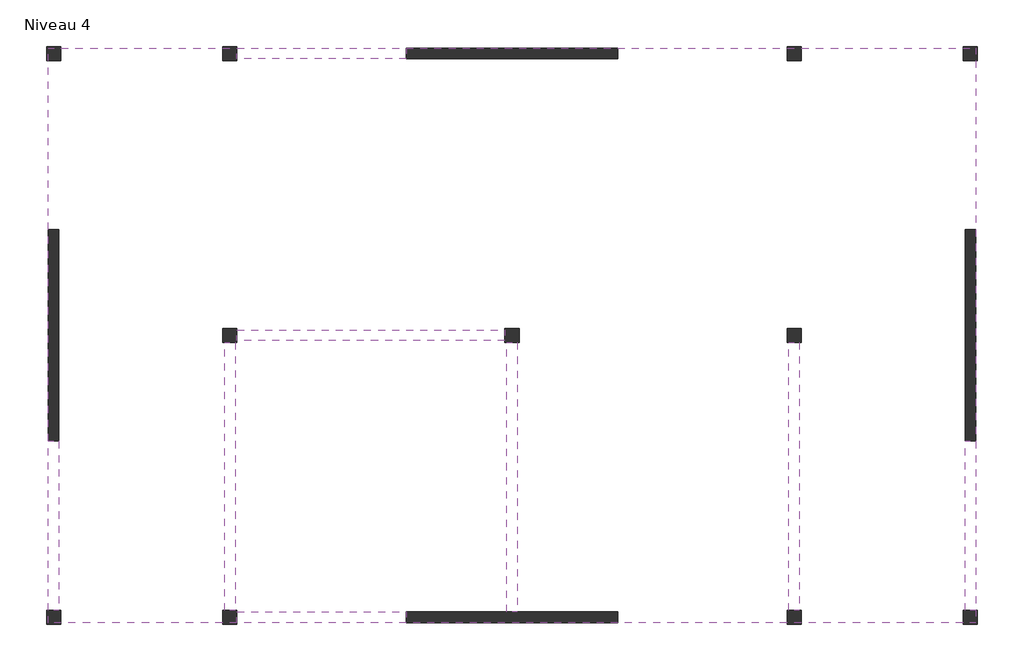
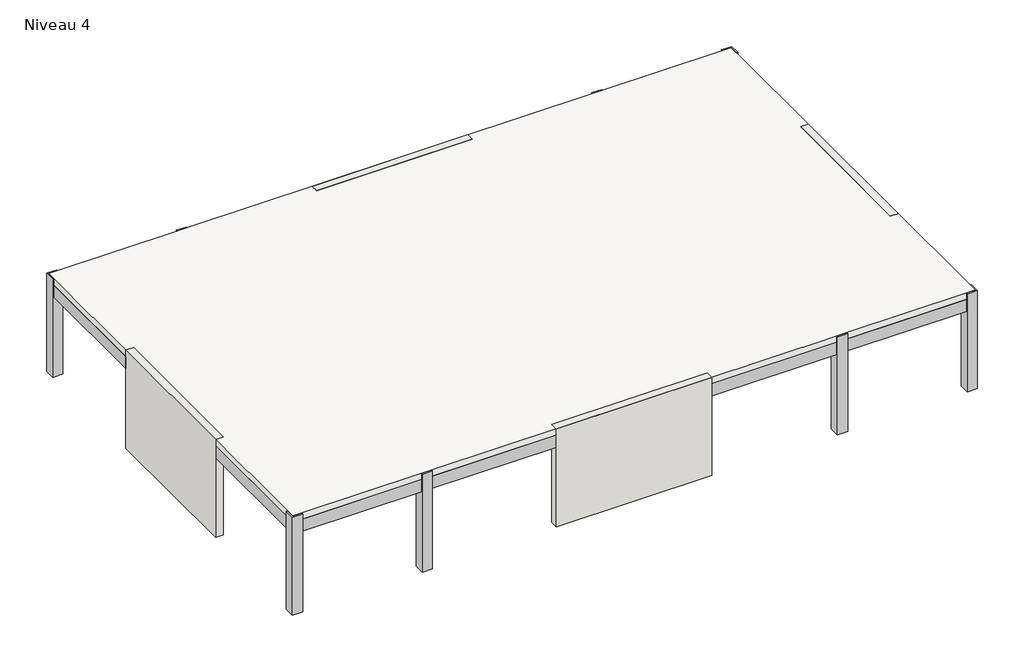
# One storey: 11 columns, 8 beams, 4 walls, 1 slab.
"""IFC4 building model written with IfcOpenShell, lengths in millimetres."""

from ifc_helpers import new_model, si_unit, frame, origin, place, context, project, spatial, polyline, outline, extrude, faceted_brep, element, save

model = new_model("IFC4")

# Units and contexts
model_context = context("Model", 3, world=origin())
ifc_project = project(units=[si_unit("LENGTHUNIT", "METRE", prefix="MILLI")], contexts=[model_context])

# Site, building, storey
site = spatial("IfcSite", under=ifc_project)
building = spatial("IfcBuilding", under=site)
storey = spatial("IfcBuildingStorey", under=building, Name="Niveau 4", Elevation=16000.0)

# Beams
placement = place(None, origin())
element("IfcBeam", 1, ObjectType="Poutre rectangulaire - Béton : 300 x 750 mm", at=placement, inside=storey, context=model_context, shape_type="SweptSolid", body=[
    extrude(outline(polyline([(-16808.6650278, 7952.7596515), (-16508.6650278, 7952.7596515), (-16508.6650278, 3152.7596515), (-16808.6650278, 3152.7596515), (-16808.6650278, 7952.7596515)])), frame((0.0, 0.0, 19250.0), z_axis=(0.0, 0.0, 1.0), x_axis=(1.0, 0.0, 0.0)), (0.0, 0.0, 1.0), 500.0),
    extrude(outline(polyline([(-16508.6650278, -7647.2403485), (-16808.6650278, -7647.2403485), (-16808.6650278, -2847.2403485), (-16508.6650278, -2847.2403485), (-16508.6650278, -7647.2403485)])), frame((0.0, 0.0, 19250.0), z_axis=(0.0, 0.0, 1.0), x_axis=(1.0, 0.0, 0.0)), (0.0, 0.0, 1.0), 500.0),
])
element("IfcBeam", 2, ObjectType="Poutre rectangulaire - Béton : 300 x 750 mm", at=placement, inside=storey, context=model_context, shape_type="SweptSolid", body=[
    extrude(outline(polyline([(-11808.6650278, 7952.7596515), (-11508.6650278, 7952.7596515), (-11508.6650278, 352.7596515), (-11808.6650278, 352.7596515), (-11808.6650278, 7952.7596515)])), frame((0.0, 0.0, 19250.0), z_axis=(0.0, 0.0, 1.0), x_axis=(1.0, 0.0, 0.0)), (0.0, 0.0, 1.0), 500.0),
    extrude(outline(polyline([(-11808.6650278, -47.2403485), (-11508.6650278, -47.2403485), (-11508.6650278, -7647.2403485), (-11808.6650278, -7647.2403485), (-11808.6650278, -47.2403485)])), frame((0.0, 0.0, 19250.0), z_axis=(0.0, 0.0, 1.0), x_axis=(1.0, 0.0, 0.0)), (0.0, 0.0, 1.0), 500.0),
])
element("IfcBeam", 3, ObjectType="Poutre rectangulaire - Béton : 300 x 750 mm", at=placement, inside=storey, context=model_context, shape_type="SweptSolid", body=[
    extrude(outline(polyline([(4491.3349722, 352.7596515), (4191.3349722, 352.7596515), (4191.3349722, 7952.7596515), (4491.3349722, 7952.7596515), (4491.3349722, 352.7596515)])), frame((0.0, 0.0, 19250.0), z_axis=(0.0, 0.0, 1.0), x_axis=(1.0, 0.0, 0.0)), (0.0, 0.0, 1.0), 500.0),
    extrude(outline(polyline([(4491.3349722, -7647.2403485), (4191.3349722, -7647.2403485), (4191.3349722, -47.2403485), (4491.3349722, -47.2403485), (4491.3349722, -7647.2403485)])), frame((0.0, 0.0, 19250.0), z_axis=(0.0, 0.0, 1.0), x_axis=(1.0, 0.0, 0.0)), (0.0, 0.0, 1.0), 500.0),
])
element("IfcBeam", 4, ObjectType="Poutre rectangulaire - Béton : 300 x 750 mm", at=placement, inside=storey, context=model_context, shape_type="SweptSolid", body=[
    extrude(outline(polyline([(9191.3349722, 7952.7596515), (9491.3349722, 7952.7596515), (9491.3349722, 3152.7596515), (9191.3349722, 3152.7596515), (9191.3349722, 7952.7596515)])), frame((0.0, 0.0, 19250.0), z_axis=(0.0, 0.0, 1.0), x_axis=(1.0, 0.0, 0.0)), (0.0, 0.0, 1.0), 500.0),
    extrude(outline(polyline([(9491.3349722, -7647.2403485), (9191.3349722, -7647.2403485), (9191.3349722, -2847.2403485), (9491.3349722, -2847.2403485), (9491.3349722, -7647.2403485)])), frame((0.0, 0.0, 19250.0), z_axis=(0.0, 0.0, 1.0), x_axis=(1.0, 0.0, 0.0)), (0.0, 0.0, 1.0), 500.0),
])
element("IfcBeam", 5, ObjectType="Poutre rectangulaire - Béton : 300 x 750 mm", at=placement, inside=storey, context=model_context, shape_type="SweptSolid", body=[
    extrude(outline(polyline([(9191.3349722, 302.7596515), (9191.3349722, 2.7596515), (4541.3349722, 2.7596515), (4541.3349722, 302.7596515), (9191.3349722, 302.7596515)])), frame((0.0, 0.0, 19250.0), z_axis=(0.0, 0.0, 1.0), x_axis=(1.0, 0.0, 0.0)), (0.0, 0.0, 1.0), 500.0),
    extrude(outline(polyline([(-16508.6650278, 2.7596515), (-16508.6650278, 302.7596515), (-11858.6650278, 302.7596515), (-11858.6650278, 2.7596515), (-16508.6650278, 2.7596515)])), frame((0.0, 0.0, 19250.0), z_axis=(0.0, 0.0, 1.0), x_axis=(1.0, 0.0, 0.0)), (0.0, 0.0, 1.0), 500.0),
    extrude(outline(polyline([(-11458.6650278, 2.7596515), (-11458.6650278, 302.7596515), (-3858.6650278, 302.7596515), (-3858.6650278, 2.7596515), (-11458.6650278, 2.7596515)])), frame((0.0, 0.0, 19250.0), z_axis=(0.0, 0.0, 1.0), x_axis=(1.0, 0.0, 0.0)), (0.0, 0.0, 1.0), 500.0),
    extrude(outline(polyline([(-3458.6650278, 2.7596515), (-3458.6650278, 302.7596515), (4141.3349722, 302.7596515), (4141.3349722, 2.7596515), (-3458.6650278, 2.7596515)])), frame((0.0, 0.0, 19250.0), z_axis=(0.0, 0.0, 1.0), x_axis=(1.0, 0.0, 0.0)), (0.0, 0.0, 1.0), 500.0),
])
element("IfcBeam", 6, ObjectType="Poutre rectangulaire - Béton : 300 x 750 mm", at=placement, inside=storey, context=model_context, shape_type="SweptSolid", body=[
    extrude(outline(polyline([(-3508.6650278, 8002.7596515), (-3508.6650278, 352.7596515), (-3808.6650278, 352.7596515), (-3808.6650278, 8002.7596515), (-3508.6650278, 8002.7596515)])), frame((0.0, 0.0, 19250.0), z_axis=(0.0, 0.0, 1.0), x_axis=(1.0, 0.0, 0.0)), (0.0, 0.0, 1.0), 500.0),
    extrude(outline(polyline([(-3508.6650278, -47.2403485), (-3508.6650278, -7697.2403485), (-3808.6650278, -7697.2403485), (-3808.6650278, -47.2403485), (-3508.6650278, -47.2403485)])), frame((0.0, 0.0, 19250.0), z_axis=(0.0, 0.0, 1.0), x_axis=(1.0, 0.0, 0.0)), (0.0, 0.0, 1.0), 500.0),
])
element("IfcBeam", 7, ObjectType="Poutre rectangulaire - Béton : 300 x 750 mm", at=placement, inside=storey, context=model_context, shape_type="SweptSolid", body=[
    extrude(outline(polyline([(-16458.6650278, -7997.2403485), (-16458.6650278, -7697.2403485), (-11858.6650278, -7697.2403485), (-11858.6650278, -7997.2403485), (-16458.6650278, -7997.2403485)])), frame((0.0, 0.0, 19250.0), z_axis=(0.0, 0.0, 1.0), x_axis=(1.0, 0.0, 0.0)), (0.0, 0.0, 1.0), 500.0),
    extrude(outline(polyline([(-11458.6650278, -7997.2403485), (-11458.6650278, -7697.2403485), (-6658.6650278, -7697.2403485), (-6658.6650278, -7997.2403485), (-11458.6650278, -7997.2403485)])), frame((0.0, 0.0, 19250.0), z_axis=(0.0, 0.0, 1.0), x_axis=(1.0, 0.0, 0.0)), (0.0, 0.0, 1.0), 500.0),
    extrude(outline(polyline([(9141.3349722, -7997.2403485), (4541.3349722, -7997.2403485), (4541.3349722, -7697.2403485), (9141.3349722, -7697.2403485), (9141.3349722, -7997.2403485)])), frame((0.0, 0.0, 19250.0), z_axis=(0.0, 0.0, 1.0), x_axis=(1.0, 0.0, 0.0)), (0.0, 0.0, 1.0), 500.0),
    extrude(outline(polyline([(4141.3349722, -7697.2403485), (4141.3349722, -7997.2403485), (-658.6650278, -7997.2403485), (-658.6650278, -7697.2403485), (4141.3349722, -7697.2403485)])), frame((0.0, 0.0, 19250.0), z_axis=(0.0, 0.0, 1.0), x_axis=(1.0, 0.0, 0.0)), (0.0, 0.0, 1.0), 500.0),
])
element("IfcBeam", 8, ObjectType="Poutre rectangulaire - Béton : 300 x 750 mm", at=placement, inside=storey, context=model_context, shape_type="SweptSolid", body=[
    extrude(outline(polyline([(-11858.6650278, 8002.7596515), (-16458.6650278, 8002.7596515), (-16458.6650278, 8302.7596515), (-11858.6650278, 8302.7596515), (-11858.6650278, 8002.7596515)])), frame((0.0, 0.0, 19250.0), z_axis=(0.0, 0.0, 1.0), x_axis=(1.0, 0.0, 0.0)), (0.0, 0.0, 1.0), 500.0),
    extrude(outline(polyline([(-11458.6650278, 8002.7596515), (-11458.6650278, 8302.7596515), (-6658.6650278, 8302.7596515), (-6658.6650278, 8002.7596515), (-11458.6650278, 8002.7596515)])), frame((0.0, 0.0, 19250.0), z_axis=(0.0, 0.0, 1.0), x_axis=(1.0, 0.0, 0.0)), (0.0, 0.0, 1.0), 500.0),
    extrude(outline(polyline([(9141.3349722, 8002.7596515), (4541.3349722, 8002.7596515), (4541.3349722, 8302.7596515), (9141.3349722, 8302.7596515), (9141.3349722, 8002.7596515)])), frame((0.0, 0.0, 19250.0), z_axis=(0.0, 0.0, 1.0), x_axis=(1.0, 0.0, 0.0)), (0.0, 0.0, 1.0), 500.0),
    extrude(outline(polyline([(4141.3349722, 8302.7596515), (4141.3349722, 8002.7596515), (-658.6650278, 8002.7596515), (-658.6650278, 8302.7596515), (4141.3349722, 8302.7596515)])), frame((0.0, 0.0, 19250.0), z_axis=(0.0, 0.0, 1.0), x_axis=(1.0, 0.0, 0.0)), (0.0, 0.0, 1.0), 500.0),
])

# Columns
element("IfcColumn", 9, ObjectType="Poteau béton - Carré : 400 mm x 400 mm", at=placement, inside=storey, context=model_context, shape_type="Brep", body=[
    faceted_brep([(-16458.6650278, 8352.7596515, 16000.0), (-16458.6650278, 7952.7596515, 16000.0), (-16858.6650278, 7952.7596515, 16000.0), (-16858.6650278, 8352.7596515, 16000.0), (-16458.6650278, 8352.7596515, 20000.0), (-16458.6650278, 8302.7596515, 20000.0), (-16458.6650278, 8302.7596515, 19750.0), (-16458.6650278, 8002.7596515, 19750.0), (-16458.6650278, 7952.7596515, 19750.0), (-16508.6650278, 7952.7596515, 19750.0), (-16808.6650278, 7952.7596515, 19750.0), (-16808.6650278, 7952.7596515, 20000.0), (-16858.6650278, 7952.7596515, 20000.0), (-16858.6650278, 8352.7596515, 20000.0), (-16808.6650278, 8302.7596515, 20000.0), (-16808.6650278, 8302.7596515, 19750.0)], [[[0, 1, 2, 3]], [[1, 0, 4, 5, 6, 7, 8]], [[2, 1, 8, 9, 10, 11, 12]], [[3, 2, 12, 13]], [[0, 3, 13, 4]], [[13, 12, 11, 14, 5, 4]], [[6, 15, 10, 9, 8, 7]], [[15, 14, 11, 10]], [[14, 15, 6, 5]]]),
])
element("IfcColumn", 10, ObjectType="Poteau béton - Carré : 400 mm x 400 mm", at=placement, inside=storey, context=model_context, shape_type="Brep", body=[
    faceted_brep([(-11458.6650278, 8352.7596515, 16000.0), (-11458.6650278, 7952.7596515, 16000.0), (-11858.6650278, 7952.7596515, 16000.0), (-11858.6650278, 8352.7596515, 16000.0), (-11458.6650278, 8352.7596515, 20000.0), (-11458.6650278, 8302.7596515, 20000.0), (-11458.6650278, 8302.7596515, 19750.0), (-11458.6650278, 8002.7596515, 19750.0), (-11458.6650278, 7952.7596515, 19750.0), (-11508.6650278, 7952.7596515, 19750.0), (-11808.6650278, 7952.7596515, 19750.0), (-11858.6650278, 7952.7596515, 19750.0), (-11858.6650278, 8002.7596515, 19750.0), (-11858.6650278, 8302.7596515, 19750.0), (-11858.6650278, 8302.7596515, 20000.0), (-11858.6650278, 8352.7596515, 20000.0)], [[[0, 1, 2, 3]], [[1, 0, 4, 5, 6, 7, 8]], [[2, 1, 8, 9, 10, 11]], [[3, 2, 11, 12, 13, 14, 15]], [[0, 3, 15, 4]], [[4, 15, 14, 5]], [[6, 13, 12, 11, 10, 9, 8, 7]], [[13, 6, 5, 14]]]),
])
element("IfcColumn", 11, ObjectType="Poteau béton - Carré : 400 mm x 400 mm", at=placement, inside=storey, context=model_context, shape_type="Brep", body=[
    faceted_brep([(-11458.6650278, 352.7596515, 16000.0), (-11458.6650278, -47.2403485, 16000.0), (-11858.6650278, -47.2403485, 16000.0), (-11858.6650278, 352.7596515, 16000.0), (-11458.6650278, 352.7596515, 19750.0), (-11458.6650278, 302.7596515, 19750.0), (-11458.6650278, 2.7596515, 19750.0), (-11458.6650278, -47.2403485, 19750.0), (-11508.6650278, -47.2403485, 19750.0), (-11808.6650278, -47.2403485, 19750.0), (-11858.6650278, -47.2403485, 19750.0), (-11858.6650278, 2.7596515, 19750.0), (-11858.6650278, 302.7596515, 19750.0), (-11858.6650278, 352.7596515, 19750.0), (-11808.6650278, 352.7596515, 19750.0), (-11508.6650278, 352.7596515, 19750.0)], [[[0, 1, 2, 3]], [[1, 0, 4, 5, 6, 7]], [[2, 1, 7, 8, 9, 10]], [[3, 2, 10, 11, 12, 13]], [[0, 3, 13, 14, 15, 4]], [[7, 6, 5, 4, 15, 14, 13, 12, 11, 10, 9, 8]]]),
])
element("IfcColumn", 12, ObjectType="Poteau béton - Carré : 400 mm x 400 mm", at=placement, inside=storey, context=model_context, shape_type="Brep", body=[
    faceted_brep([(-3458.6650278, 352.7596515, 16000.0), (-3458.6650278, -47.2403485, 16000.0), (-3858.6650278, -47.2403485, 16000.0), (-3858.6650278, 352.7596515, 16000.0), (-3458.6650278, 352.7596515, 19750.0), (-3458.6650278, 302.7596515, 19750.0), (-3458.6650278, 2.7596515, 19750.0), (-3458.6650278, -47.2403485, 19750.0), (-3508.6650278, -47.2403485, 19750.0), (-3808.6650278, -47.2403485, 19750.0), (-3858.6650278, -47.2403485, 19750.0), (-3858.6650278, 2.7596515, 19750.0), (-3858.6650278, 302.7596515, 19750.0), (-3858.6650278, 352.7596515, 19750.0), (-3808.6650278, 352.7596515, 19750.0), (-3508.6650278, 352.7596515, 19750.0)], [[[0, 1, 2, 3]], [[1, 0, 4, 5, 6, 7]], [[2, 1, 7, 8, 9, 10]], [[3, 2, 10, 11, 12, 13]], [[0, 3, 13, 14, 15, 4]], [[7, 6, 5, 4, 15, 14, 13, 12, 11, 10, 9, 8]]]),
])
element("IfcColumn", 13, ObjectType="Poteau béton - Carré : 400 mm x 400 mm", at=placement, inside=storey, context=model_context, shape_type="Brep", body=[
    faceted_brep([(-16458.6650278, -7647.2403485, 16000.0), (-16458.6650278, -8047.2403485, 16000.0), (-16858.6650278, -8047.2403485, 16000.0), (-16858.6650278, -7647.2403485, 16000.0), (-16458.6650278, -7647.2403485, 19750.0), (-16458.6650278, -7697.2403485, 19750.0), (-16458.6650278, -7997.2403485, 19750.0), (-16458.6650278, -7997.2403485, 20000.0), (-16458.6650278, -8047.2403485, 20000.0), (-16858.6650278, -8047.2403485, 20000.0), (-16858.6650278, -7647.2403485, 20000.0), (-16808.6650278, -7647.2403485, 20000.0), (-16808.6650278, -7647.2403485, 19750.0), (-16508.6650278, -7647.2403485, 19750.0), (-16808.6650278, -7997.2403485, 20000.0), (-16808.6650278, -7997.2403485, 19750.0)], [[[0, 1, 2, 3]], [[1, 0, 4, 5, 6, 7, 8]], [[2, 1, 8, 9]], [[3, 2, 9, 10]], [[0, 3, 10, 11, 12, 13, 4]], [[9, 8, 7, 14, 11, 10]], [[12, 15, 6, 5, 4, 13]], [[15, 14, 7, 6]], [[14, 15, 12, 11]]]),
])
element("IfcColumn", 14, ObjectType="Poteau béton - Carré : 400 mm x 400 mm", at=placement, inside=storey, context=model_context, shape_type="Brep", body=[
    faceted_brep([(-11458.6650278, -7647.2403485, 16000.0), (-11458.6650278, -8047.2403485, 16000.0), (-11858.6650278, -8047.2403485, 16000.0), (-11858.6650278, -7647.2403485, 16000.0), (-11458.6650278, -7647.2403485, 19750.0), (-11458.6650278, -7697.2403485, 19750.0), (-11458.6650278, -7997.2403485, 19750.0), (-11458.6650278, -7997.2403485, 20000.0), (-11458.6650278, -8047.2403485, 20000.0), (-11858.6650278, -8047.2403485, 20000.0), (-11858.6650278, -7997.2403485, 20000.0), (-11858.6650278, -7997.2403485, 19750.0), (-11858.6650278, -7697.2403485, 19750.0), (-11858.6650278, -7647.2403485, 19750.0), (-11808.6650278, -7647.2403485, 19750.0), (-11508.6650278, -7647.2403485, 19750.0)], [[[0, 1, 2, 3]], [[1, 0, 4, 5, 6, 7, 8]], [[2, 1, 8, 9]], [[3, 2, 9, 10, 11, 12, 13]], [[0, 3, 13, 14, 15, 4]], [[9, 8, 7, 10]], [[11, 6, 5, 4, 15, 14, 13, 12]], [[6, 11, 10, 7]]]),
])
element("IfcColumn", 15, ObjectType="Poteau béton - Carré : 400 mm x 400 mm", at=placement, inside=storey, context=model_context, shape_type="Brep", body=[
    faceted_brep([(4541.3349722, -7647.2403485, 16000.0), (4541.3349722, -8047.2403485, 16000.0), (4141.3349722, -8047.2403485, 16000.0), (4141.3349722, -7647.2403485, 16000.0), (4541.3349722, -7647.2403485, 19750.0), (4541.3349722, -7697.2403485, 19750.0), (4541.3349722, -7997.2403485, 19750.0), (4541.3349722, -7997.2403485, 20000.0), (4541.3349722, -8047.2403485, 20000.0), (4141.3349722, -8047.2403485, 20000.0), (4141.3349722, -7997.2403485, 20000.0), (4141.3349722, -7997.2403485, 19750.0), (4141.3349722, -7697.2403485, 19750.0), (4141.3349722, -7647.2403485, 19750.0), (4191.3349722, -7647.2403485, 19750.0), (4491.3349722, -7647.2403485, 19750.0)], [[[0, 1, 2, 3]], [[1, 0, 4, 5, 6, 7, 8]], [[2, 1, 8, 9]], [[3, 2, 9, 10, 11, 12, 13]], [[0, 3, 13, 14, 15, 4]], [[9, 8, 7, 10]], [[11, 6, 5, 4, 15, 14, 13, 12]], [[6, 11, 10, 7]]]),
])
element("IfcColumn", 16, ObjectType="Poteau béton - Carré : 400 mm x 400 mm", at=placement, inside=storey, context=model_context, shape_type="Brep", body=[
    faceted_brep([(9541.3349722, -7647.2403485, 16000.0), (9541.3349722, -8047.2403485, 16000.0), (9141.3349722, -8047.2403485, 16000.0), (9141.3349722, -7647.2403485, 16000.0), (9541.3349722, -7647.2403485, 20000.0), (9541.3349722, -8047.2403485, 20000.0), (9141.3349722, -8047.2403485, 20000.0), (9141.3349722, -7997.2403485, 20000.0), (9141.3349722, -7997.2403485, 19750.0), (9141.3349722, -7697.2403485, 19750.0), (9141.3349722, -7647.2403485, 19750.0), (9191.3349722, -7647.2403485, 19750.0), (9491.3349722, -7647.2403485, 19750.0), (9491.3349722, -7647.2403485, 20000.0), (9491.3349722, -7997.2403485, 20000.0), (9491.3349722, -7997.2403485, 19750.0)], [[[0, 1, 2, 3]], [[1, 0, 4, 5]], [[2, 1, 5, 6]], [[3, 2, 6, 7, 8, 9, 10]], [[0, 3, 10, 11, 12, 13, 4]], [[5, 4, 13, 14, 7, 6]], [[15, 12, 11, 10, 9, 8]], [[14, 15, 8, 7]], [[15, 14, 13, 12]]]),
])
element("IfcColumn", 17, ObjectType="Poteau béton - Carré : 400 mm x 400 mm", at=placement, inside=storey, context=model_context, shape_type="Brep", body=[
    faceted_brep([(4541.3349722, 352.7596515, 16000.0), (4541.3349722, -47.2403485, 16000.0), (4141.3349722, -47.2403485, 16000.0), (4141.3349722, 352.7596515, 16000.0), (4541.3349722, 352.7596515, 19750.0), (4541.3349722, 302.7596515, 19750.0), (4541.3349722, 2.7596515, 19750.0), (4541.3349722, -47.2403485, 19750.0), (4491.3349722, -47.2403485, 19750.0), (4191.3349722, -47.2403485, 19750.0), (4141.3349722, -47.2403485, 19750.0), (4141.3349722, 2.7596515, 19750.0), (4141.3349722, 302.7596515, 19750.0), (4141.3349722, 352.7596515, 19750.0), (4191.3349722, 352.7596515, 19750.0), (4491.3349722, 352.7596515, 19750.0)], [[[0, 1, 2, 3]], [[1, 0, 4, 5, 6, 7]], [[2, 1, 7, 8, 9, 10]], [[3, 2, 10, 11, 12, 13]], [[0, 3, 13, 14, 15, 4]], [[7, 6, 5, 4, 15, 14, 13, 12, 11, 10, 9, 8]]]),
])
element("IfcColumn", 18, ObjectType="Poteau béton - Carré : 400 mm x 400 mm", at=placement, inside=storey, context=model_context, shape_type="Brep", body=[
    faceted_brep([(4541.3349722, 8352.7596515, 16000.0), (4541.3349722, 7952.7596515, 16000.0), (4141.3349722, 7952.7596515, 16000.0), (4141.3349722, 8352.7596515, 16000.0), (4541.3349722, 8352.7596515, 20000.0), (4541.3349722, 8302.7596515, 20000.0), (4541.3349722, 8302.7596515, 19750.0), (4541.3349722, 8002.7596515, 19750.0), (4541.3349722, 7952.7596515, 19750.0), (4491.3349722, 7952.7596515, 19750.0), (4191.3349722, 7952.7596515, 19750.0), (4141.3349722, 7952.7596515, 19750.0), (4141.3349722, 8002.7596515, 19750.0), (4141.3349722, 8302.7596515, 19750.0), (4141.3349722, 8302.7596515, 20000.0), (4141.3349722, 8352.7596515, 20000.0)], [[[0, 1, 2, 3]], [[1, 0, 4, 5, 6, 7, 8]], [[2, 1, 8, 9, 10, 11]], [[3, 2, 11, 12, 13, 14, 15]], [[0, 3, 15, 4]], [[4, 15, 14, 5]], [[6, 13, 12, 11, 10, 9, 8, 7]], [[13, 6, 5, 14]]]),
])
element("IfcColumn", 19, ObjectType="Poteau béton - Carré : 400 mm x 400 mm", at=placement, inside=storey, context=model_context, shape_type="Brep", body=[
    faceted_brep([(9541.3349722, 8352.7596515, 16000.0), (9541.3349722, 7952.7596515, 16000.0), (9141.3349722, 7952.7596515, 16000.0), (9141.3349722, 8352.7596515, 16000.0), (9541.3349722, 8352.7596515, 20000.0), (9541.3349722, 7952.7596515, 20000.0), (9491.3349722, 7952.7596515, 20000.0), (9491.3349722, 7952.7596515, 19750.0), (9191.3349722, 7952.7596515, 19750.0), (9141.3349722, 7952.7596515, 19750.0), (9141.3349722, 8002.7596515, 19750.0), (9141.3349722, 8302.7596515, 19750.0), (9141.3349722, 8302.7596515, 20000.0), (9141.3349722, 8352.7596515, 20000.0), (9491.3349722, 8302.7596515, 20000.0), (9491.3349722, 8302.7596515, 19750.0)], [[[0, 1, 2, 3]], [[1, 0, 4, 5]], [[2, 1, 5, 6, 7, 8, 9]], [[3, 2, 9, 10, 11, 12, 13]], [[0, 3, 13, 4]], [[5, 4, 13, 12, 14, 6]], [[7, 15, 11, 10, 9, 8]], [[15, 14, 12, 11]], [[14, 15, 7, 6]]]),
])

# Slab
element("IfcSlab", 20, ObjectType="Dalle en béton - 250 mm", at=placement, inside=storey, context=model_context, shape_type="Brep", body=[
    faceted_brep([(9491.3349722, -7997.2403485, 19750.0), (9141.3349722, -7997.2403485, 19750.0), (4541.3349722, -7997.2403485, 19750.0), (4141.3349722, -7997.2403485, 19750.0), (-658.6650278, -7997.2403485, 19750.0), (-6658.6650278, -7997.2403485, 19750.0), (-11458.6650278, -7997.2403485, 19750.0), (-11858.6650278, -7997.2403485, 19750.0), (-16458.6650278, -7997.2403485, 19750.0), (-16808.6650278, -7997.2403485, 19750.0), (-16808.6650278, -7647.2403485, 19750.0), (-16808.6650278, -2847.2403485, 19750.0), (-16808.6650278, 3152.7596515, 19750.0), (-16808.6650278, 7952.7596515, 19750.0), (-16808.6650278, 8302.7596515, 19750.0), (-16458.6650278, 8302.7596515, 19750.0), (-11858.6650278, 8302.7596515, 19750.0), (-11458.6650278, 8302.7596515, 19750.0), (-6658.6650278, 8302.7596515, 19750.0), (-658.6650278, 8302.7596515, 19750.0), (4141.3349722, 8302.7596515, 19750.0), (4541.3349722, 8302.7596515, 19750.0), (9141.3349722, 8302.7596515, 19750.0), (9491.3349722, 8302.7596515, 19750.0), (9491.3349722, 7952.7596515, 19750.0), (9491.3349722, 3152.7596515, 19750.0), (9491.3349722, -2847.2403485, 19750.0), (9491.3349722, -7647.2403485, 19750.0), (9491.3349722, -7997.2403485, 20000.0), (9491.3349722, -7647.2403485, 20000.0), (9491.3349722, 7952.7596515, 20000.0), (9491.3349722, 8302.7596515, 20000.0), (9141.3349722, 8302.7596515, 20000.0), (4541.3349722, 8302.7596515, 20000.0), (4141.3349722, 8302.7596515, 20000.0), (-11458.6650278, 8302.7596515, 20000.0), (-11858.6650278, 8302.7596515, 20000.0), (-16458.6650278, 8302.7596515, 20000.0), (-16808.6650278, 8302.7596515, 20000.0), (-16808.6650278, 7952.7596515, 20000.0), (-16808.6650278, -7647.2403485, 20000.0), (-16808.6650278, -7997.2403485, 20000.0), (-16458.6650278, -7997.2403485, 20000.0), (-11858.6650278, -7997.2403485, 20000.0), (-11458.6650278, -7997.2403485, 20000.0), (4141.3349722, -7997.2403485, 20000.0), (4541.3349722, -7997.2403485, 20000.0), (9141.3349722, -7997.2403485, 20000.0)], [[[0, 1, 2, 3, 4, 5, 6, 7, 8, 9, 10, 11, 12, 13, 14, 15, 16, 17, 18, 19, 20, 21, 22, 23, 24, 25, 26, 27]], [[28, 29, 30, 31, 32, 33, 34, 35, 36, 37, 38, 39, 40, 41, 42, 43, 44, 45, 46, 47]], [[9, 8, 7, 6, 5, 4, 3, 2, 1, 0, 28, 47, 46, 45, 44, 43, 42, 41]], [[14, 13, 12, 11, 10, 9, 41, 40, 39, 38]], [[23, 22, 21, 20, 19, 18, 17, 16, 15, 14, 38, 37, 36, 35, 34, 33, 32, 31]], [[0, 27, 26, 25, 24, 23, 31, 30, 29, 28]]]),
])

# Walls
element("IfcWall", 21, ObjectType="Ext. Voile BA 30", at=placement, inside=storey, context=model_context, shape_type="Brep", body=[
    faceted_brep([(-6658.6650278, 8002.7596515, 16000.0), (-658.6650278, 8002.7596515, 16000.0), (-658.6650278, 8002.7596515, 19250.0), (-658.6650278, 8002.7596515, 19750.0), (-658.6650278, 8002.7596515, 20000.0), (-6658.6650278, 8002.7596515, 20000.0), (-6658.6650278, 8002.7596515, 19750.0), (-6658.6650278, 8002.7596515, 19250.0), (-6658.6650278, 8302.7596515, 16000.0), (-6658.6650278, 8302.7596515, 19250.0), (-6658.6650278, 8302.7596515, 19750.0), (-6658.6650278, 8302.7596515, 20000.0), (-658.6650278, 8302.7596515, 20000.0), (-658.6650278, 8302.7596515, 19750.0), (-658.6650278, 8302.7596515, 19250.0), (-658.6650278, 8302.7596515, 16000.0)], [[[0, 1, 2, 3, 4, 5, 6, 7]], [[8, 9, 10, 11, 12, 13, 14, 15]], [[1, 0, 8, 15]], [[4, 3, 2, 1, 15, 14, 13, 12]], [[5, 4, 12, 11]], [[0, 7, 6, 5, 11, 10, 9, 8]]]),
])
element("IfcWall", 22, ObjectType="Ext. Voile BA 30", at=placement, inside=storey, context=model_context, shape_type="Brep", body=[
    faceted_brep([(-6658.6650278, -7997.2403485, 16000.0), (-658.6650278, -7997.2403485, 16000.0), (-658.6650278, -7997.2403485, 19250.0), (-658.6650278, -7997.2403485, 19750.0), (-658.6650278, -7997.2403485, 20000.0), (-6658.6650278, -7997.2403485, 20000.0), (-6658.6650278, -7997.2403485, 19750.0), (-6658.6650278, -7997.2403485, 19250.0), (-6658.6650278, -7697.2403485, 16000.0), (-6658.6650278, -7697.2403485, 19250.0), (-6658.6650278, -7697.2403485, 19750.0), (-6658.6650278, -7697.2403485, 20000.0), (-658.6650278, -7697.2403485, 20000.0), (-658.6650278, -7697.2403485, 19750.0), (-658.6650278, -7697.2403485, 19250.0), (-658.6650278, -7697.2403485, 16000.0)], [[[0, 1, 2, 3, 4, 5, 6, 7]], [[8, 9, 10, 11, 12, 13, 14, 15]], [[1, 0, 8, 15]], [[4, 3, 2, 1, 15, 14, 13, 12]], [[5, 4, 12, 11]], [[0, 7, 6, 5, 11, 10, 9, 8]]]),
])
element("IfcWall", 23, ObjectType="Ext. Voile BA 30", at=placement, inside=storey, context=model_context, shape_type="Brep", body=[
    faceted_brep([(-16508.6650278, -2847.2403485, 16000.0), (-16508.6650278, 3152.7596515, 16000.0), (-16508.6650278, 3152.7596515, 19250.0), (-16508.6650278, 3152.7596515, 19750.0), (-16508.6650278, 3152.7596515, 20000.0), (-16508.6650278, -2847.2403485, 20000.0), (-16508.6650278, -2847.2403485, 19750.0), (-16508.6650278, -2847.2403485, 19250.0), (-16808.6650278, -2847.2403485, 16000.0), (-16808.6650278, -2847.2403485, 19250.0), (-16808.6650278, -2847.2403485, 19750.0), (-16808.6650278, -2847.2403485, 20000.0), (-16808.6650278, 3152.7596515, 20000.0), (-16808.6650278, 3152.7596515, 19750.0), (-16808.6650278, 3152.7596515, 19250.0), (-16808.6650278, 3152.7596515, 16000.0)], [[[0, 1, 2, 3, 4, 5, 6, 7]], [[8, 9, 10, 11, 12, 13, 14, 15]], [[1, 0, 8, 15]], [[4, 3, 2, 1, 15, 14, 13, 12]], [[5, 4, 12, 11]], [[0, 7, 6, 5, 11, 10, 9, 8]]]),
])
element("IfcWall", 24, ObjectType="Ext. Voile BA 30", at=placement, inside=storey, context=model_context, shape_type="Brep", body=[
    faceted_brep([(9491.3349722, -2847.2403485, 16000.0), (9491.3349722, 3152.7596515, 16000.0), (9491.3349722, 3152.7596515, 19250.0), (9491.3349722, 3152.7596515, 19750.0), (9491.3349722, 3152.7596515, 20000.0), (9491.3349722, -2847.2403485, 20000.0), (9491.3349722, -2847.2403485, 19750.0), (9491.3349722, -2847.2403485, 19250.0), (9191.3349722, -2847.2403485, 16000.0), (9191.3349722, -2847.2403485, 19250.0), (9191.3349722, -2847.2403485, 19750.0), (9191.3349722, -2847.2403485, 20000.0), (9191.3349722, 3152.7596515, 20000.0), (9191.3349722, 3152.7596515, 19750.0), (9191.3349722, 3152.7596515, 19250.0), (9191.3349722, 3152.7596515, 16000.0)], [[[0, 1, 2, 3, 4, 5, 6, 7]], [[8, 9, 10, 11, 12, 13, 14, 15]], [[1, 0, 8, 15]], [[4, 3, 2, 1, 15, 14, 13, 12]], [[5, 4, 12, 11]], [[0, 7, 6, 5, 11, 10, 9, 8]]]),
])

save(model, "model.ifc")
